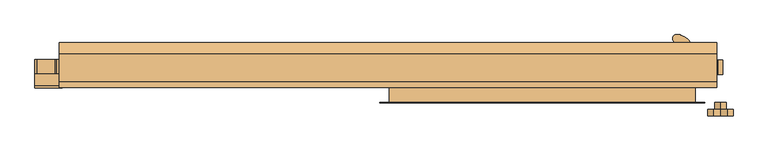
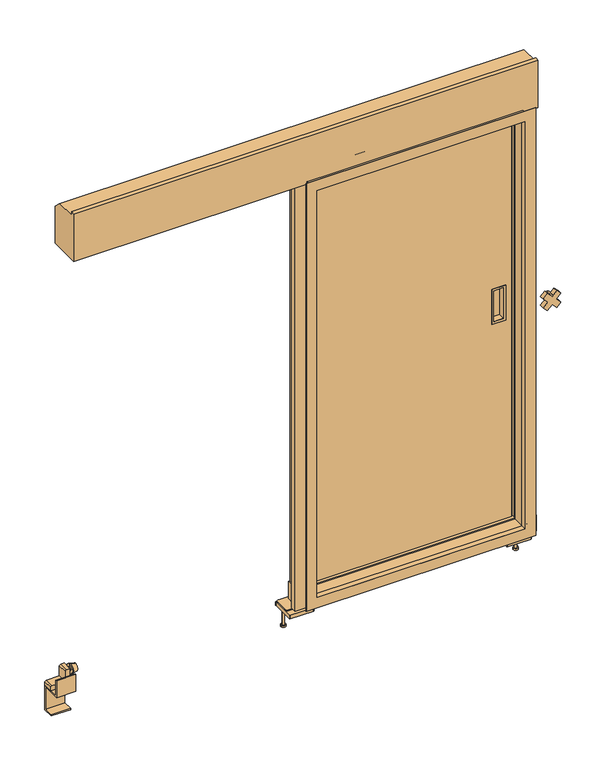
"""IFC4 building model written with IfcOpenShell, lengths in millimetres: door geometry, 冷蔵_片引きスライドドア4方_手動 : W870xH1800xt55."""

from ifc_helpers import new_model, si_unit, point, frame, frame_2d, origin, place, context, project, spatial, polyline, circle_curve, trimmed, segment, composite_curve, outline, extrude, faceted_brep, source, transform, mapped, element, save
from ifc_brep_helpers import plane_surface, cylinder_surface, revolved_surface, advanced_brep


def door_8bd8df1e(model_context):
    return source(origin(), model_context, "Body", "SolidModel", [
        faceted_brep([(470.0, 112.5, 1835.0), (-470.0, 112.5, 1835.0), (-470.0, 68.5, 1835.0), (470.0, 68.5, 1835.0), (470.0, 112.5, -35.0), (470.0, 68.5, -35.0), (-470.0, 68.5, -35.0), (-470.0, 112.5, -35.0), (-425.0, 68.5, 1790.0), (425.0, 68.5, 1790.0), (425.0, 68.5, 10.0), (-425.0, 68.5, 10.0), (-425.0, 57.5, 1790.0), (425.0, 57.5, 1790.0), (425.0, 57.5, 10.0), (-425.0, 57.5, 10.0), (350.500035, 57.5, 1033.0), (390.500035, 57.5, 1033.0), (390.500035, 57.5, 897.0), (350.500035, 57.5, 897.0), (350.500035, 85.5, 1033.0), (390.500035, 85.5, 1033.0), (350.500035, 85.5, 897.0), (390.500035, 85.5, 897.0)], [[[0, 1, 2, 3]], [[4, 5, 6, 7]], [[1, 0, 4, 7]], [[2, 1, 7, 6]], [[3, 2, 6, 5], [8, 9, 10, 11]], [[0, 3, 5, 4]], [[8, 12, 13, 9]], [[10, 14, 15, 11]], [[12, 8, 11, 15]], [[13, 12, 15, 14], [16, 17, 18, 19]], [[9, 13, 14, 10]], [[20, 21, 17, 16]], [[20, 16, 19, 22]], [[22, 19, 18, 23]], [[17, 21, 23, 18]], [[21, 20, 22, 23]]]),
        extrude(outline(polyline([(1042.0, 399.500035), (1042.0, 341.500035), (888.0, 341.500035), (888.0, 399.500035), (1042.0, 399.500035)]), holes=[polyline([(897.0, 390.500035), (897.0, 350.500035), (1033.0, 350.500035), (1033.0, 390.500035), (897.0, 390.500035)])]), frame((0.0, 55.499995, 0.0), z_axis=(0.0, 1.0, 0.0), x_axis=(0.0, 0.0, 1.0)), (0.0, 0.0, 1.0), 2.000005),
        extrude(outline(polyline([(73.49997, -69.99999), (61.49997, -57.99999), (61.49997, 5.00001), (111.49997, 5.00001), (111.49997, -69.99999), (73.49997, -69.99999)])), frame((-476.0, 0.0, 0.0), z_axis=(1.0, 0.0, 0.0), x_axis=(0.0, 1.0, 0.0)), (0.0, 0.0, 1.0), 6.0),
        extrude(outline(polyline([(73.49997, -69.99999), (61.49997, -57.99999), (61.49997, 5.00001), (111.49997, 5.00001), (111.49997, -69.99999), (73.49997, -69.99999)])), frame((470.0, 0.0, 0.0), z_axis=(1.0, 0.0, 0.0), x_axis=(0.0, 1.0, 0.0)), (0.0, 0.0, 1.0), 6.0),
        extrude(outline(polyline([(470.0, 112.5), (470.0, 77.49997), (-470.0, 77.49997), (-470.0, 112.5), (470.0, 112.5)])), frame((0.0, 0.0, -69.99999), z_axis=(0.0, 0.0, 1.0), x_axis=(1.0, 0.0, 0.0)), (0.0, 0.0, 1.0), 34.99999),
        extrude(outline(polyline([(-460.4985861, 68.5), (460.4985861, 68.5), (460.4985861, 51.499345), (-460.4985861, 51.499345), (-460.4985861, 68.5)])), frame((0.0, 0.0, -25.0), z_axis=(0.0, 0.0, 1.0), x_axis=(1.0, 0.0, 0.0)), (0.0, 0.0, 1.0), 28.0),
        extrude(outline(polyline([(460.4985861, 48.9116213), (432.5014439, 48.9116213), (432.5014439, 68.5), (460.4985861, 68.5), (460.4985861, 48.9116213)])), frame((0.0, 0.0, 10.0), z_axis=(0.0, 0.0, 1.0), x_axis=(1.0, 0.0, 0.0)), (0.0, 0.0, 1.0), 1780.0),
        extrude(outline(polyline([(-460.4985861, 48.9116213), (-460.4985861, 68.5), (-432.5014439, 68.5), (-432.5014439, 48.9116213), (-460.4985861, 48.9116213)])), frame((0.0, 0.0, 10.0), z_axis=(0.0, 0.0, 1.0), x_axis=(1.0, 0.0, 0.0)), (0.0, 0.0, 1.0), 1780.0),
        extrude(outline(polyline([(460.4985861, 68.5), (460.4985861, 48.9116213), (-460.4985861, 48.9116213), (-460.4985861, 68.5), (460.4985861, 68.5)])), frame((0.0, 0.0, 1797.4986091), z_axis=(0.0, 0.0, 1.0), x_axis=(1.0, 0.0, 0.0)), (0.0, 0.0, 1.0), 28.0),
        extrude(outline(composite_curve([segment(trimmed(circle_curve(frame_2d((-405.4891322, 152.0220459)), 2.0), [point((-405.4891322, 154.0220459))], [point((-403.4891322, 152.0220459))], False, "CARTESIAN"), True, "CONTINUOUS"), segment(polyline([(-403.4891322, 152.0220459), (-403.4891322, 54.0220459)]), True, "CONTINUOUS"), segment(trimmed(circle_curve(frame_2d((-405.4891322, 54.0220459)), 2.0), [point((-403.4891322, 54.0220459))], [point((-405.4891322, 52.0220459))], False, "CARTESIAN"), True, "CONTINUOUS"), segment(polyline([(-405.4891322, 52.0220459), (-503.4891322, 52.0220459)]), True, "CONTINUOUS"), segment(trimmed(circle_curve(frame_2d((-503.4891322, 54.0220459)), 2.0), [point((-503.4891322, 52.0220459))], [point((-505.4891322, 54.0220459))], False, "CARTESIAN"), True, "CONTINUOUS"), segment(polyline([(-505.4891322, 54.0220459), (-505.4891322, 152.0220459)]), True, "CONTINUOUS"), segment(trimmed(circle_curve(frame_2d((-503.4891322, 152.0220459)), 2.0), [point((-505.4891322, 152.0220459))], [point((-503.4891322, 154.0220459))], False, "CARTESIAN"), True, "CONTINUOUS"), segment(polyline([(-503.4891322, 154.0220459), (-405.4891322, 154.0220459)]), True, "CONTINUOUS")], self_intersect=False)), frame((0.0, 0.0, -115.0), z_axis=(0.0, 0.0, 1.0), x_axis=(1.0, 0.0, 0.0)), (0.0, 0.0, 1.0), 15.0),
        extrude(outline(composite_curve([segment(trimmed(circle_curve(frame_2d((503.0, 152.0)), 2.0), [point((503.0, 154.0))], [point((505.0, 152.0))], False, "CARTESIAN"), True, "CONTINUOUS"), segment(polyline([(505.0, 152.0), (505.0, 54.0)]), True, "CONTINUOUS"), segment(trimmed(circle_curve(frame_2d((503.0, 54.0)), 2.0), [point((505.0, 54.0))], [point((503.0, 52.0))], False, "CARTESIAN"), True, "CONTINUOUS"), segment(polyline([(503.0, 52.0), (405.0, 52.0)]), True, "CONTINUOUS"), segment(trimmed(circle_curve(frame_2d((405.0, 54.0)), 2.0), [point((405.0, 52.0))], [point((403.0, 54.0))], False, "CARTESIAN"), True, "CONTINUOUS"), segment(polyline([(403.0, 54.0), (403.0, 152.0)]), True, "CONTINUOUS"), segment(trimmed(circle_curve(frame_2d((405.0, 152.0)), 2.0), [point((403.0, 152.0))], [point((405.0, 154.0))], False, "CARTESIAN"), True, "CONTINUOUS"), segment(polyline([(405.0, 154.0), (503.0, 154.0)]), True, "CONTINUOUS")], self_intersect=False)), frame((0.0, 0.0, -115.0), z_axis=(0.0, 0.0, 1.0), x_axis=(1.0, 0.0, 0.0)), (0.0, 0.0, 1.0), 15.0),
        extrude(outline(polyline([(-94.0, 532.0), (-25.009996, 532.0), (-25.002916, 517.0), (-30.003376, 511.99999), (-74.007516, 511.99999), (-74.007516, 457.0), (-79.007976, 451.99999), (-94.0, 451.99999), (-94.0, 532.0)])), frame((0.0, 62.0, 0.0), z_axis=(0.0, 1.0, 0.0), x_axis=(0.0, 0.0, 1.0)), (0.0, 0.0, 1.0), 42.00225),
        extrude(outline(polyline([(1037.123106, 544.9454365), (1017.6776695, 525.5), (1037.123106, 506.0545635), (1019.4454365, 488.376894), (1000.0, 507.8223305), (980.5545635, 488.376894), (962.876894, 506.0545635), (982.3223305, 525.5), (962.876894, 544.9454365), (980.5545635, 562.623106), (1000.0, 543.1776695), (1019.4454365, 562.623106), (1037.123106, 544.9454365)])), frame((0.0, -62.0, 0.0), z_axis=(0.0, 1.0, 0.0), x_axis=(0.0, 0.0, 1.0)), (0.0, 0.0, 1.0), 20.0),
        extrude(outline(composite_curve([segment(trimmed(circle_curve(frame_2d((1000.0, 525.5)), 16.99999), [point((983.00001, 525.5))], [point((1016.99999, 525.5))], False, "CARTESIAN"), True, "CONTINUOUS"), segment(trimmed(circle_curve(frame_2d((1000.0, 525.5)), 16.99999), [point((1016.99999, 525.5))], [point((983.00001, 525.5))], False, "CARTESIAN"), True, "CONTINUOUS")], self_intersect=False)), frame((0.0, -42.0, 0.0), z_axis=(0.0, 1.0, 0.0), x_axis=(0.0, 0.0, 1.0)), (0.0, 0.0, 1.0), 20.0),
        advanced_brep(
        [(-1404.999995, 85.0, -58.99311), (-1404.999995, 85.0, -19.0), (-1404.999995, 85.0, -30.996555), (-1404.999995, 85.0, -46.996555), (-1400.999995, 85.0, -58.99311), (-1400.999995, 85.0, -19.0), (-1380.999995, 85.0, -53.9931073), (-1380.999995, 85.0, -24.0000027), (-1380.999995, 85.0, -38.996555), (-1416.99999, 85.0, -46.996555), (-1416.99999, 85.0, -30.996555), (-1416.99999, 85.0, -38.996555)],
        [
            (0, 1, circle_curve(frame((-1404.999995, 85.0, -38.996555), z_axis=(-1.0, 0.0, 0.0), x_axis=(0.0, 0.0, 1.0)), 19.996555)),
            (1, 2),
            (2, 3, circle_curve(frame((-1404.999995, 85.0, -38.996555), z_axis=(1.0, 0.0, 0.0), x_axis=(0.0, 0.0, 1.0)), 8.0)),
            (3, 0),
            (1, 0, circle_curve(frame((-1404.999995, 85.0, -38.996555), z_axis=(-1.0, 0.0, 0.0), x_axis=(0.0, 0.0, 1.0)), 19.996555)),
            (3, 2, circle_curve(frame((-1404.999995, 85.0, -38.996555), z_axis=(1.0, 0.0, 0.0), x_axis=(0.0, 0.0, 1.0)), 8.0)),
            (4, 5, circle_curve(frame((-1400.999995, 85.0, -38.996555), z_axis=(-1.0, 0.0, 0.0), x_axis=(0.0, 0.0, 1.0)), 19.996555)),
            (5, 1),
            (0, 4),
            (5, 4, circle_curve(frame((-1400.999995, 85.0, -38.996555), z_axis=(-1.0, 0.0, 0.0), x_axis=(0.0, 0.0, 1.0)), 19.996555)),
            (6, 7, circle_curve(frame((-1380.999995, 85.0, -38.996555), z_axis=(-1.0, 0.0, 0.0), x_axis=(0.0, 0.0, 1.0)), 14.9965523)),
            (7, 5),
            (4, 6),
            (7, 6, circle_curve(frame((-1380.999995, 85.0, -38.996555), z_axis=(-1.0, 0.0, 0.0), x_axis=(0.0, 0.0, 1.0)), 14.9965523)),
            (8, 7),
            (6, 8),
            (9, 10, circle_curve(frame((-1416.99999, 85.0, -38.996555), z_axis=(-1.0, 0.0, 0.0), x_axis=(0.0, 0.0, 1.0)), 8.0)),
            (10, 11),
            (11, 9),
            (10, 9, circle_curve(frame((-1416.99999, 85.0, -38.996555), z_axis=(-1.0, 0.0, 0.0), x_axis=(0.0, 0.0, 1.0)), 8.0)),
            (2, 10),
            (9, 3),
        ],
        [
            plane_surface(frame((-1404.999995, 85.0, -38.996555), z_axis=(-1.0, 0.0, 0.0), x_axis=(0.0, 0.0, 1.0))),
            cylinder_surface(frame((-1380.999995, 85.0, -38.996555), z_axis=(1.0, 0.0, 0.0), x_axis=(0.0, 0.0, 1.0)), 19.996555),
            revolved_surface(polyline([(-1400.999995, 85.0, -19.0), (-1380.999995, 85.0, -24.0000027)]), (-1380.999995, 85.0, -38.996555), (1.0, 0.0, 0.0)),
            plane_surface(frame((-1380.999995, 85.0, -38.996555), z_axis=(1.0, 0.0, 0.0), x_axis=(0.0, 0.0, 1.0))),
            plane_surface(frame((-1416.99999, 85.0, -38.996555), z_axis=(-1.0, 0.0, 0.0), x_axis=(0.0, 0.0, 1.0))),
            cylinder_surface(frame((-1380.999995, 85.0, -38.996555), z_axis=(1.0, 0.0, 0.0), x_axis=(0.0, 0.0, 1.0)), 8.0),
        ],
        [
            (0, [[1, 2, 3, 4]]),
            (0, [[5, -4, 6, -2]]),
            (1, [[7, 8, -1, 9]]),
            (1, [[10, -9, -5, -8]]),
            (2, [[11, 12, -7, 13]]),
            (2, [[14, -13, -10, -12]]),
            (3, [[15, -11, 16]]),
            (3, [[-16, -14, -15]]),
            (4, [[17, 18, 19]]),
            (4, [[20, -19, -18]]),
            (5, [[-3, 21, -17, 22]]),
            (5, [[-6, -22, -20, -21]]),
        ],
    ),
        extrude(outline(polyline([(-91.983954, -1416.99999), (-21.99395, -1416.99999), (-21.98687, -1431.99999), (-26.98733, -1437.0), (-71.99396, -1437.0), (-71.99147, -1491.99999), (-76.99193, -1497.0), (-91.99397, -1497.0), (-91.983954, -1416.99999)])), frame((0.0, 63.99775, 0.0), z_axis=(0.0, 1.0, 0.0), x_axis=(0.0, 0.0, 1.0)), (0.0, 0.0, 1.0), 42.00225),
        advanced_brep(
        [(499.999995, 83.0, -62.009156), (499.999995, 83.0, -22.016046), (499.999995, 83.0, -34.012601), (499.999995, 83.0, -50.012601), (495.999995, 83.0, -62.009156), (495.999995, 83.0, -22.016046), (475.999995, 83.0, -57.0091533), (475.999995, 83.0, -27.0160487), (475.999995, 83.0, -42.012601), (511.99999, 83.0, -50.012601), (511.99999, 83.0, -34.012601), (511.99999, 83.0, -42.012601)],
        [
            (0, 1, circle_curve(frame((499.999995, 83.0, -42.012601), z_axis=(1.0, 0.0, 0.0), x_axis=(0.0, 0.0, 1.0)), 19.996555)),
            (1, 2),
            (2, 3, circle_curve(frame((499.999995, 83.0, -42.012601), z_axis=(-1.0, 0.0, 0.0), x_axis=(0.0, 0.0, 1.0)), 8.0)),
            (3, 0),
            (1, 0, circle_curve(frame((499.999995, 83.0, -42.012601), z_axis=(1.0, 0.0, 0.0), x_axis=(0.0, 0.0, 1.0)), 19.996555)),
            (3, 2, circle_curve(frame((499.999995, 83.0, -42.012601), z_axis=(-1.0, 0.0, 0.0), x_axis=(0.0, 0.0, 1.0)), 8.0)),
            (4, 5, circle_curve(frame((495.999995, 83.0, -42.012601), z_axis=(1.0, 0.0, 0.0), x_axis=(0.0, 0.0, 1.0)), 19.996555)),
            (5, 1),
            (0, 4),
            (5, 4, circle_curve(frame((495.999995, 83.0, -42.012601), z_axis=(1.0, 0.0, 0.0), x_axis=(0.0, 0.0, 1.0)), 19.996555)),
            (6, 7, circle_curve(frame((475.999995, 83.0, -42.012601), z_axis=(1.0, 0.0, 0.0), x_axis=(0.0, 0.0, 1.0)), 14.9965523)),
            (7, 5),
            (4, 6),
            (7, 6, circle_curve(frame((475.999995, 83.0, -42.012601), z_axis=(1.0, 0.0, 0.0), x_axis=(0.0, 0.0, 1.0)), 14.9965523)),
            (8, 7),
            (6, 8),
            (9, 10, circle_curve(frame((511.99999, 83.0, -42.012601), z_axis=(1.0, 0.0, 0.0), x_axis=(0.0, 0.0, 1.0)), 8.0)),
            (10, 11),
            (11, 9),
            (10, 9, circle_curve(frame((511.99999, 83.0, -42.012601), z_axis=(1.0, 0.0, 0.0), x_axis=(0.0, 0.0, 1.0)), 8.0)),
            (2, 10),
            (9, 3),
        ],
        [
            plane_surface(frame((499.999995, 83.0, -42.012601), z_axis=(1.0, 0.0, 0.0), x_axis=(0.0, 0.0, 1.0))),
            cylinder_surface(frame((475.999995, 83.0, -42.012601), z_axis=(-1.0, 0.0, 0.0), x_axis=(0.0, 0.0, 1.0)), 19.996555),
            revolved_surface(polyline([(495.999995, 83.0, -22.016046), (475.999995, 83.0, -27.0160487)]), (475.999995, 83.0, -42.012601), (-1.0, 0.0, 0.0)),
            plane_surface(frame((475.999995, 83.0, -42.012601), z_axis=(-1.0, 0.0, 0.0), x_axis=(0.0, 0.0, 1.0))),
            plane_surface(frame((511.99999, 83.0, -42.012601), z_axis=(1.0, 0.0, 0.0), x_axis=(0.0, 0.0, 1.0))),
            cylinder_surface(frame((475.999995, 83.0, -42.012601), z_axis=(-1.0, 0.0, 0.0), x_axis=(0.0, 0.0, 1.0)), 8.0),
        ],
        [
            (0, [[1, 2, 3, 4]]),
            (0, [[5, -4, 6, -2]]),
            (1, [[7, 8, -1, 9]]),
            (1, [[10, -9, -5, -8]]),
            (2, [[11, 12, -7, 13]]),
            (2, [[14, -13, -10, -12]]),
            (3, [[15, -11, 16]]),
            (3, [[-16, -14, -15]]),
            (4, [[17, 18, 19]]),
            (4, [[20, -19, -18]]),
            (5, [[-3, 21, -17, 22]]),
            (5, [[-6, -22, -20, -21]]),
        ],
    ),
        extrude(outline(composite_curve([segment(polyline([(-433.999285, 141.49999), (-433.999285, 90.49999)]), True, "CONTINUOUS"), segment(trimmed(circle_curve(frame_2d((-443.999285, 90.49999)), 10.0), [point((-433.999285, 90.49999))], [point((-443.999285, 80.49999))], False, "CARTESIAN"), True, "CONTINUOUS"), segment(polyline([(-443.999285, 80.49999), (-495.00008, 80.49999)]), True, "CONTINUOUS"), segment(trimmed(circle_curve(frame_2d((-495.00008, 90.49999)), 10.0), [point((-495.00008, 80.49999))], [point((-505.00008, 90.49999))], False, "CARTESIAN"), True, "CONTINUOUS"), segment(polyline([(-505.00008, 90.49999), (-505.00008, 141.49999)]), True, "CONTINUOUS"), segment(trimmed(circle_curve(frame_2d((-495.00008, 141.49999)), 10.0), [point((-505.00008, 141.49999))], [point((-495.00008, 151.49999))], False, "CARTESIAN"), True, "CONTINUOUS"), segment(polyline([(-495.00008, 151.49999), (-443.999285, 151.49999)]), True, "CONTINUOUS"), segment(trimmed(circle_curve(frame_2d((-443.999285, 141.49999)), 10.0), [point((-443.999285, 151.49999))], [point((-433.999285, 141.49999))], False, "CARTESIAN"), True, "CONTINUOUS")], self_intersect=False)), frame((0.0, 0.0, -100.0), z_axis=(0.0, 0.0, 1.0), x_axis=(1.0, 0.0, 0.0)), (0.0, 0.0, 1.0), 6.0),
        extrude(outline(composite_curve([segment(polyline([(504.50008, 141.49999), (504.50008, 90.49999)]), True, "CONTINUOUS"), segment(trimmed(circle_curve(frame_2d((494.50008, 90.49999)), 10.0), [point((504.50008, 90.49999))], [point((494.50008, 80.49999))], False, "CARTESIAN"), True, "CONTINUOUS"), segment(polyline([(494.50008, 80.49999), (443.499285, 80.49999)]), True, "CONTINUOUS"), segment(trimmed(circle_curve(frame_2d((443.499285, 90.49999)), 10.0), [point((443.499285, 80.49999))], [point((433.499285, 90.49999))], False, "CARTESIAN"), True, "CONTINUOUS"), segment(polyline([(433.499285, 90.49999), (433.499285, 141.49999)]), True, "CONTINUOUS"), segment(trimmed(circle_curve(frame_2d((443.499285, 141.49999)), 10.0), [point((433.499285, 141.49999))], [point((443.499285, 151.49999))], False, "CARTESIAN"), True, "CONTINUOUS"), segment(polyline([(443.499285, 151.49999), (494.50008, 151.49999)]), True, "CONTINUOUS"), segment(trimmed(circle_curve(frame_2d((494.50008, 141.49999)), 10.0), [point((494.50008, 151.49999))], [point((504.50008, 141.49999))], False, "CARTESIAN"), True, "CONTINUOUS")], self_intersect=False)), frame((0.0, 0.0, -100.0), z_axis=(0.0, 0.0, 1.0), x_axis=(1.0, 0.0, 0.0)), (0.0, 0.0, 1.0), 6.0),
        extrude(outline(polyline([(155.499875, 1967.610405), (155.499875, 1805.000385), (22.0, 1805.000385), (22.0, 2015.000355), (38.499875, 2015.000355), (38.499875, 2000.000305), (123.109975, 2000.000305), (155.499875, 1967.610405)])), frame((-1425.0, 0.0, 0.0), z_axis=(1.0, 0.0, 0.0), x_axis=(0.0, 1.0, 0.0)), (0.0, 0.0, 1.0), 1940.0),
        faceted_brep([(451.00103, 22.0, -16.00103), (451.00103, -22.0, -16.00103), (-451.00103, -22.0, -16.00103), (-451.00103, 22.0, -16.00103), (-451.00103, -22.0, 1816.00103), (-451.00103, 22.0, 1816.00103), (451.00103, -22.0, 1816.00103), (-435.0, -22.0, 1800.0), (435.0, -22.0, 1800.0), (435.0, -22.0, 0.0), (-435.0, -22.0, 0.0), (-500.0, 22.0, -65.0), (500.0, 22.0, -65.0), (500.0, 22.0, 1865.0), (-500.0, 22.0, 1865.0), (451.00103, 22.0, 1816.00103), (500.0, 49.0, -65.0), (-500.0, 49.0, -65.0), (-500.0, 49.0, 1865.0), (500.0, 49.0, 1865.0), (-435.0, 49.0, 0.0), (435.0, 49.0, 0.0), (435.0, 49.0, 1800.0), (-435.0, 49.0, 1800.0)], [[[0, 1, 2, 3]], [[3, 2, 4, 5]], [[2, 1, 6, 4], [7, 8, 9, 10]], [[11, 12, 13, 14], [5, 15, 0, 3]], [[16, 12, 11, 17]], [[17, 11, 14, 18]], [[18, 19, 16, 17], [20, 21, 22, 23]], [[9, 21, 20, 10]], [[10, 20, 23, 7]], [[15, 6, 1, 0]], [[19, 13, 12, 16]], [[8, 22, 21, 9]], [[5, 4, 6, 15]], [[18, 14, 13, 19]], [[7, 23, 22, 8]]]),
        faceted_brep([(479.0, -22.0, -44.0), (479.0, -23.2, -44.0), (-479.0, -23.2, -44.0), (-479.0, -22.0, -44.0), (-479.0, -23.2, 1844.0), (-479.0, -22.0, 1844.0), (479.0, -23.2, 1844.0), (-433.8, -23.2, 1798.8), (433.8, -23.2, 1798.8), (433.8, -23.2, 1.2), (-433.8, -23.2, 1.2), (479.0, -22.0, 1844.0), (-435.0, -22.0, 0.0), (435.0, -22.0, 0.0), (435.0, -22.0, 1800.0), (-435.0, -22.0, 1800.0), (435.0, -1.2, 0.0), (-435.0, -1.2, 0.0), (-435.0, -1.2, 1800.0), (435.0, -1.2, 1800.0), (-433.8, -1.2, 1.2), (433.8, -1.2, 1.2), (433.8, -1.2, 1798.8), (-433.8, -1.2, 1798.8)], [[[0, 1, 2, 3]], [[3, 2, 4, 5]], [[2, 1, 6, 4], [7, 8, 9, 10]], [[5, 11, 0, 3], [12, 13, 14, 15]], [[16, 13, 12, 17]], [[17, 12, 15, 18]], [[18, 19, 16, 17], [20, 21, 22, 23]], [[9, 21, 20, 10]], [[10, 20, 23, 7]], [[11, 6, 1, 0]], [[19, 14, 13, 16]], [[8, 22, 21, 9]], [[5, 4, 6, 11]], [[18, 15, 14, 19]], [[7, 23, 22, 8]]]),
        advanced_brep(
        [(408.6234406, 177.3571279, 745.0), (408.6234402, 157.6428419, 745.0), (404.50281, 156.499985, 745.0), (393.89726, 156.499985, 745.0), (389.7766295, 157.6428424, 745.0), (389.7766298, 177.3571281, 745.0), (393.89726, 178.499985, 745.0), (404.50281, 178.499985, 745.0), (408.6234406, 177.3571279, 1245.0), (408.6234402, 157.6428419, 1245.0), (404.50281, 156.499985, 1245.0), (393.89726, 156.499985, 1245.0), (389.7766295, 157.6428424, 1245.0), (389.7766298, 177.3571281, 1245.0), (393.89726, 178.499985, 1245.0), (404.50281, 178.499985, 1245.0)],
        [
            (0, 1, circle_curve(frame((402.700035, 167.499985, 745.0), z_axis=(0.0, 0.0, -1.0), x_axis=(0.0, -1.0, 0.0)), 11.5)),
            (1, 2, circle_curve(frame((404.50281, 164.499985, 745.0), z_axis=(0.0, 0.0, -1.0), x_axis=(0.0, -1.0, 0.0)), 8.0)),
            (2, 3),
            (3, 4, circle_curve(frame((393.89726, 164.499985, 745.0), z_axis=(0.0, 0.0, -1.0), x_axis=(0.0, -1.0, 0.0)), 8.0)),
            (4, 5, circle_curve(frame((395.700035, 167.499985, 745.0), z_axis=(0.0, 0.0, -1.0), x_axis=(0.0, -1.0, 0.0)), 11.5)),
            (5, 6, circle_curve(frame((393.89726, 170.499985, 745.0), z_axis=(0.0, 0.0, -1.0), x_axis=(0.0, -1.0, 0.0)), 8.0)),
            (6, 7),
            (7, 0, circle_curve(frame((404.50281, 170.499985, 745.0), z_axis=(0.0, 0.0, -1.0), x_axis=(0.0, -1.0, 0.0)), 8.0)),
            (8, 9, circle_curve(frame((402.700035, 167.499985, 1245.0), z_axis=(0.0, 0.0, -1.0), x_axis=(0.0, -1.0, 0.0)), 11.5)),
            (9, 1),
            (0, 8),
            (9, 10, circle_curve(frame((404.50281, 164.499985, 1245.0), z_axis=(0.0, 0.0, -1.0), x_axis=(0.0, -1.0, 0.0)), 8.0)),
            (10, 2),
            (10, 11),
            (11, 3),
            (11, 12, circle_curve(frame((393.89726, 164.499985, 1245.0), z_axis=(0.0, 0.0, -1.0), x_axis=(0.0, -1.0, 0.0)), 8.0)),
            (12, 4),
            (12, 13, circle_curve(frame((395.700035, 167.499985, 1245.0), z_axis=(0.0, 0.0, -1.0), x_axis=(0.0, -1.0, 0.0)), 11.5)),
            (13, 5),
            (13, 14, circle_curve(frame((393.89726, 170.499985, 1245.0), z_axis=(0.0, 0.0, -1.0), x_axis=(0.0, -1.0, 0.0)), 8.0)),
            (14, 6),
            (14, 15),
            (15, 7),
            (15, 8, circle_curve(frame((404.50281, 170.499985, 1245.0), z_axis=(0.0, 0.0, -1.0), x_axis=(0.0, -1.0, 0.0)), 8.0)),
        ],
        [
            plane_surface(frame((404.50281, 162.499985, 745.0), z_axis=(0.0, 0.0, -1.0), x_axis=(-1.0, 0.0, 0.0))),
            cylinder_surface(frame((402.700035, 167.499985, 745.0), z_axis=(0.0, 0.0, 1.0), x_axis=(0.0, -1.0, 0.0)), 11.5),
            cylinder_surface(frame((404.50281, 164.499985, 745.0), z_axis=(0.0, 0.0, 1.0), x_axis=(0.0, -1.0, 0.0)), 8.0),
            plane_surface(frame((393.89726, 156.499985, 1245.0), z_axis=(0.0, -1.0, 0.0), x_axis=(0.0, 0.0, -1.0))),
            cylinder_surface(frame((393.89726, 164.499985, 745.0), z_axis=(0.0, 0.0, 1.0), x_axis=(0.0, -1.0, 0.0)), 8.0),
            cylinder_surface(frame((395.700035, 167.499985, 745.0), z_axis=(0.0, 0.0, 1.0), x_axis=(0.0, -1.0, 0.0)), 11.5),
            cylinder_surface(frame((393.89726, 170.499985, 745.0), z_axis=(0.0, 0.0, 1.0), x_axis=(0.0, -1.0, 0.0)), 8.0),
            plane_surface(frame((404.50281, 178.499985, 1245.0), z_axis=(0.0, 1.0, 0.0), x_axis=(0.0, 0.0, -1.0))),
            cylinder_surface(frame((404.50281, 170.499985, 745.0), z_axis=(0.0, 0.0, 1.0), x_axis=(0.0, -1.0, 0.0)), 8.0),
            plane_surface(frame((404.50281, 162.499985, 1245.0), z_axis=(0.0, 0.0, 1.0), x_axis=(1.0, 0.0, 0.0))),
        ],
        [
            (0, [[1, 2, 3, 4, 5, 6, 7, 8]]),
            (1, [[9, 10, -1, 11]]),
            (2, [[12, 13, -2, -10]]),
            (3, [[14, 15, -3, -13]]),
            (4, [[16, 17, -4, -15]]),
            (5, [[18, 19, -5, -17]]),
            (6, [[20, 21, -6, -19]]),
            (7, [[22, 23, -7, -21]]),
            (8, [[24, -11, -8, -23]]),
            (9, [[-24, -22, -20, -18, -16, -14, -12, -9]]),
        ],
    ),
        advanced_brep(
        [(-486.00008, 132.49999, -200.0), (-476.00008, 132.49999, -200.0), (-496.00008, 132.49999, -200.0), (-491.00008, 132.49999, -115.0), (-481.00008, 132.49999, -115.0), (-486.00008, 132.49999, -115.0), (-491.00008, 132.49999, -193.0), (-481.00008, 132.49999, -193.0), (-496.00008, 132.49999, -193.0), (-476.00008, 132.49999, -193.0)],
        [
            (0, 1),
            (1, 2, circle_curve(frame((-486.00008, 132.49999, -200.0), z_axis=(0.0, 0.0, -1.0), x_axis=(1.0, 0.0, 0.0)), 10.0)),
            (2, 0),
            (2, 1, circle_curve(frame((-486.00008, 132.49999, -200.0), z_axis=(0.0, 0.0, -1.0), x_axis=(1.0, 0.0, 0.0)), 10.0)),
            (3, 4, circle_curve(frame((-486.00008, 132.49999, -115.0), z_axis=(0.0, 0.0, 1.0), x_axis=(1.0, 0.0, 0.0)), 5.0)),
            (4, 5),
            (5, 3),
            (4, 3, circle_curve(frame((-486.00008, 132.49999, -115.0), z_axis=(0.0, 0.0, 1.0), x_axis=(1.0, 0.0, 0.0)), 5.0)),
            (6, 7, circle_curve(frame((-486.00008, 132.49999, -193.0), z_axis=(0.0, 0.0, 1.0), x_axis=(1.0, 0.0, 0.0)), 5.0)),
            (7, 4),
            (3, 6),
            (7, 6, circle_curve(frame((-486.00008, 132.49999, -193.0), z_axis=(0.0, 0.0, 1.0), x_axis=(1.0, 0.0, 0.0)), 5.0)),
            (8, 9, circle_curve(frame((-486.00008, 132.49999, -193.0), z_axis=(0.0, 0.0, 1.0), x_axis=(1.0, 0.0, 0.0)), 10.0)),
            (9, 7),
            (6, 8),
            (9, 8, circle_curve(frame((-486.00008, 132.49999, -193.0), z_axis=(0.0, 0.0, 1.0), x_axis=(1.0, 0.0, 0.0)), 10.0)),
            (1, 9),
            (8, 2),
        ],
        [
            plane_surface(frame((-486.00008, 132.49999, -200.0), z_axis=(0.0, 0.0, -1.0), x_axis=(1.0, 0.0, 0.0))),
            plane_surface(frame((-486.00008, 132.49999, -115.0), z_axis=(0.0, 0.0, 1.0), x_axis=(1.0, 0.0, 0.0))),
            cylinder_surface(frame((-486.00008, 132.49999, -262.0), z_axis=(0.0, 0.0, -1.0), x_axis=(1.0, 0.0, 0.0)), 5.0),
            plane_surface(frame((-486.00008, 132.49999, -193.0), z_axis=(0.0, 0.0, 1.0), x_axis=(1.0, 0.0, 0.0))),
            cylinder_surface(frame((-486.00008, 132.49999, -262.0), z_axis=(0.0, 0.0, -1.0), x_axis=(1.0, 0.0, 0.0)), 10.0),
        ],
        [
            (0, [[1, 2, 3]]),
            (0, [[-3, 4, -1]]),
            (1, [[5, 6, 7]]),
            (1, [[8, -7, -6]]),
            (2, [[9, 10, -5, 11]]),
            (2, [[12, -11, -8, -10]]),
            (3, [[13, 14, -9, 15]]),
            (3, [[16, -15, -12, -14]]),
            (4, [[-2, 17, -13, 18]]),
            (4, [[-4, -18, -16, -17]]),
        ],
    ),
        advanced_brep(
        [(485.50008, 132.49999, -200.0), (495.50008, 132.49999, -200.0), (475.50008, 132.49999, -200.0), (480.50008, 132.49999, -115.0), (490.50008, 132.49999, -115.0), (485.50008, 132.49999, -115.0), (480.50008, 132.49999, -193.0), (490.50008, 132.49999, -193.0), (475.50008, 132.49999, -193.0), (495.50008, 132.49999, -193.0)],
        [
            (0, 1),
            (1, 2, circle_curve(frame((485.50008, 132.49999, -200.0), z_axis=(0.0, 0.0, -1.0), x_axis=(1.0, 0.0, 0.0)), 10.0)),
            (2, 0),
            (2, 1, circle_curve(frame((485.50008, 132.49999, -200.0), z_axis=(0.0, 0.0, -1.0), x_axis=(1.0, 0.0, 0.0)), 10.0)),
            (3, 4, circle_curve(frame((485.50008, 132.49999, -115.0), z_axis=(0.0, 0.0, 1.0), x_axis=(1.0, 0.0, 0.0)), 5.0)),
            (4, 5),
            (5, 3),
            (4, 3, circle_curve(frame((485.50008, 132.49999, -115.0), z_axis=(0.0, 0.0, 1.0), x_axis=(1.0, 0.0, 0.0)), 5.0)),
            (6, 7, circle_curve(frame((485.50008, 132.49999, -193.0), z_axis=(0.0, 0.0, 1.0), x_axis=(1.0, 0.0, 0.0)), 5.0)),
            (7, 4),
            (3, 6),
            (7, 6, circle_curve(frame((485.50008, 132.49999, -193.0), z_axis=(0.0, 0.0, 1.0), x_axis=(1.0, 0.0, 0.0)), 5.0)),
            (8, 9, circle_curve(frame((485.50008, 132.49999, -193.0), z_axis=(0.0, 0.0, 1.0), x_axis=(1.0, 0.0, 0.0)), 10.0)),
            (9, 7),
            (6, 8),
            (9, 8, circle_curve(frame((485.50008, 132.49999, -193.0), z_axis=(0.0, 0.0, 1.0), x_axis=(1.0, 0.0, 0.0)), 10.0)),
            (1, 9),
            (8, 2),
        ],
        [
            plane_surface(frame((485.50008, 132.49999, -200.0), z_axis=(0.0, 0.0, -1.0), x_axis=(1.0, 0.0, 0.0))),
            plane_surface(frame((485.50008, 132.49999, -115.0), z_axis=(0.0, 0.0, 1.0), x_axis=(1.0, 0.0, 0.0))),
            cylinder_surface(frame((485.50008, 132.49999, -262.0), z_axis=(0.0, 0.0, -1.0), x_axis=(1.0, 0.0, 0.0)), 5.0),
            plane_surface(frame((485.50008, 132.49999, -193.0), z_axis=(0.0, 0.0, 1.0), x_axis=(1.0, 0.0, 0.0))),
            cylinder_surface(frame((485.50008, 132.49999, -262.0), z_axis=(0.0, 0.0, -1.0), x_axis=(1.0, 0.0, 0.0)), 10.0),
        ],
        [
            (0, [[1, 2, 3]]),
            (0, [[-3, 4, -1]]),
            (1, [[5, 6, 7]]),
            (1, [[8, -7, -6]]),
            (2, [[9, 10, -5, 11]]),
            (2, [[12, -11, -8, -10]]),
            (3, [[13, 14, -9, 15]]),
            (3, [[16, -15, -12, -14]]),
            (4, [[-2, 17, -13, 18]]),
            (4, [[-4, -18, -16, -17]]),
        ],
    ),
        advanced_brep(
        [(460.499285, 132.49999, -72.0), (444.499285, 132.49999, -72.0), (444.499285, 132.49999, -94.0), (460.499285, 132.49999, -94.0), (452.499285, 132.49999, -94.0), (452.499285, 132.49999, -47.0), (440.499285, 132.49999, -47.0), (464.499285, 132.49999, -47.0), (440.499285, 132.49999, -72.0), (464.499285, 132.49999, -72.0)],
        [
            (0, 1, circle_curve(frame((452.499285, 132.49999, -72.0), z_axis=(0.0, 0.0, -1.0), x_axis=(-1.0, 0.0, 0.0)), 8.0)),
            (1, 2),
            (2, 3, circle_curve(frame((452.499285, 132.49999, -94.0), z_axis=(0.0, 0.0, 1.0), x_axis=(-1.0, 0.0, 0.0)), 8.0)),
            (3, 0),
            (1, 0, circle_curve(frame((452.499285, 132.49999, -72.0), z_axis=(0.0, 0.0, -1.0), x_axis=(-1.0, 0.0, 0.0)), 8.0)),
            (3, 2, circle_curve(frame((452.499285, 132.49999, -94.0), z_axis=(0.0, 0.0, 1.0), x_axis=(-1.0, 0.0, 0.0)), 8.0)),
            (2, 4),
            (4, 3),
            (5, 6),
            (6, 7, circle_curve(frame((452.499285, 132.49999, -47.0), z_axis=(0.0, 0.0, 1.0), x_axis=(-1.0, 0.0, 0.0)), 12.0)),
            (7, 5),
            (7, 6, circle_curve(frame((452.499285, 132.49999, -47.0), z_axis=(0.0, 0.0, 1.0), x_axis=(-1.0, 0.0, 0.0)), 12.0)),
            (6, 8),
            (8, 9, circle_curve(frame((452.499285, 132.49999, -72.0), z_axis=(0.0, 0.0, 1.0), x_axis=(-1.0, 0.0, 0.0)), 12.0)),
            (9, 7),
            (9, 8, circle_curve(frame((452.499285, 132.49999, -72.0), z_axis=(0.0, 0.0, 1.0), x_axis=(-1.0, 0.0, 0.0)), 12.0)),
            (8, 1),
            (0, 9),
        ],
        [
            cylinder_surface(frame((452.499285, 132.49999, -108.3617704), z_axis=(0.0, 0.0, 1.0), x_axis=(-1.0, 0.0, 0.0)), 8.0),
            plane_surface(frame((452.499285, 132.49999, -94.0), z_axis=(0.0, 0.0, -1.0), x_axis=(-1.0, 0.0, 0.0))),
            plane_surface(frame((452.499285, 132.49999, -47.0), z_axis=(0.0, 0.0, 1.0), x_axis=(-1.0, 0.0, 0.0))),
            cylinder_surface(frame((452.499285, 132.49999, -108.3617704), z_axis=(0.0, 0.0, 1.0), x_axis=(-1.0, 0.0, 0.0)), 12.0),
            plane_surface(frame((452.499285, 132.49999, -72.0), z_axis=(0.0, 0.0, -1.0), x_axis=(-1.0, 0.0, 0.0))),
        ],
        [
            (0, [[1, 2, 3, 4]]),
            (0, [[5, -4, 6, -2]]),
            (1, [[-3, 7, 8]]),
            (1, [[-6, -8, -7]]),
            (2, [[9, 10, 11]]),
            (2, [[-11, 12, -9]]),
            (3, [[-10, 13, 14, 15]]),
            (3, [[-12, -15, 16, -13]]),
            (4, [[-14, 17, -1, 18]]),
            (4, [[-16, -18, -5, -17]]),
        ],
    ),
        advanced_brep(
        [(-444.999285, 99.49999, -72.0), (-460.999285, 99.49999, -72.0), (-460.999285, 99.49999, -94.0), (-444.999285, 99.49999, -94.0), (-452.999285, 99.49999, -94.0), (-452.999285, 99.49999, -47.0), (-464.999285, 99.49999, -47.0), (-440.999285, 99.49999, -47.0), (-464.999285, 99.49999, -72.0), (-440.999285, 99.49999, -72.0)],
        [
            (0, 1, circle_curve(frame((-452.999285, 99.49999, -72.0), z_axis=(0.0, 0.0, -1.0), x_axis=(-1.0, 0.0, 0.0)), 8.0)),
            (1, 2),
            (2, 3, circle_curve(frame((-452.999285, 99.49999, -94.0), z_axis=(0.0, 0.0, 1.0), x_axis=(-1.0, 0.0, 0.0)), 8.0)),
            (3, 0),
            (1, 0, circle_curve(frame((-452.999285, 99.49999, -72.0), z_axis=(0.0, 0.0, -1.0), x_axis=(-1.0, 0.0, 0.0)), 8.0)),
            (3, 2, circle_curve(frame((-452.999285, 99.49999, -94.0), z_axis=(0.0, 0.0, 1.0), x_axis=(-1.0, 0.0, 0.0)), 8.0)),
            (2, 4),
            (4, 3),
            (5, 6),
            (6, 7, circle_curve(frame((-452.999285, 99.49999, -47.0), z_axis=(0.0, 0.0, 1.0), x_axis=(-1.0, 0.0, 0.0)), 12.0)),
            (7, 5),
            (7, 6, circle_curve(frame((-452.999285, 99.49999, -47.0), z_axis=(0.0, 0.0, 1.0), x_axis=(-1.0, 0.0, 0.0)), 12.0)),
            (6, 8),
            (8, 9, circle_curve(frame((-452.999285, 99.49999, -72.0), z_axis=(0.0, 0.0, 1.0), x_axis=(-1.0, 0.0, 0.0)), 12.0)),
            (9, 7),
            (9, 8, circle_curve(frame((-452.999285, 99.49999, -72.0), z_axis=(0.0, 0.0, 1.0), x_axis=(-1.0, 0.0, 0.0)), 12.0)),
            (8, 1),
            (0, 9),
        ],
        [
            cylinder_surface(frame((-452.999285, 99.49999, -108.3617704), z_axis=(0.0, 0.0, 1.0), x_axis=(-1.0, 0.0, 0.0)), 8.0),
            plane_surface(frame((-452.999285, 99.49999, -94.0), z_axis=(0.0, 0.0, -1.0), x_axis=(-1.0, 0.0, 0.0))),
            plane_surface(frame((-452.999285, 99.49999, -47.0), z_axis=(0.0, 0.0, 1.0), x_axis=(-1.0, 0.0, 0.0))),
            cylinder_surface(frame((-452.999285, 99.49999, -108.3617704), z_axis=(0.0, 0.0, 1.0), x_axis=(-1.0, 0.0, 0.0)), 12.0),
            plane_surface(frame((-452.999285, 99.49999, -72.0), z_axis=(0.0, 0.0, -1.0), x_axis=(-1.0, 0.0, 0.0))),
        ],
        [
            (0, [[1, 2, 3, 4]]),
            (0, [[5, -4, 6, -2]]),
            (1, [[-3, 7, 8]]),
            (1, [[-6, -8, -7]]),
            (2, [[9, 10, 11]]),
            (2, [[-11, 12, -9]]),
            (3, [[-10, 13, 14, 15]]),
            (3, [[-12, -15, 16, -13]]),
            (4, [[-14, 17, -1, 18]]),
            (4, [[-16, -18, -5, -17]]),
        ],
    ),
        extrude(outline(polyline([(22.0, -21.98687), (27.0, -21.98687), (27.0, -91.983954), (106.0, -91.983954), (106.0, -200.0), (59.0, -200.0), (59.0, -195.0), (101.0, -195.0), (101.0, -96.983954), (22.0, -96.983954), (22.0, -21.98687)])), frame((-1497.0, 0.0, 0.0), z_axis=(1.0, 0.0, 0.0), x_axis=(0.0, 1.0, 0.0)), (0.0, 0.0, 1.0), 80.00001),
        advanced_brep(
        [(393.89726, 178.499985, 725.0), (405.9684363, 178.499985, 725.0), (406.9851731, 178.322439, 725.0), (450.0081033, 133.5570327, 725.0), (451.4023369, 124.5176673, 725.0), (451.4023369, 112.5, 725.0), (408.600035, 112.5, 725.0), (408.600035, 132.0779954, 725.0), (398.0156732, 156.499985, 725.0), (393.89726, 156.499985, 725.0), (389.7766295, 157.6428424, 725.0), (389.7766298, 177.3571281, 725.0), (393.89726, 178.499985, 745.0), (389.77663, 177.3571279, 745.0), (389.7766294, 157.6428421, 745.0), (393.89726, 156.499985, 745.0), (398.0156732, 156.499985, 745.0), (408.600035, 132.0779954, 745.0), (408.600035, 112.5, 745.0), (451.4023369, 112.5, 745.0), (451.4023369, 124.5176673, 745.0), (450.0081033, 133.5570327, 745.0), (406.9851731, 178.322439, 745.0), (405.9684363, 178.499985, 745.0)],
        [
            (0, 1),
            (1, 2, circle_curve(frame((405.9684363, 175.499985, 725.0), z_axis=(0.0, 0.0, -1.0), x_axis=(0.0, -1.0, 0.0)), 3.0)),
            (2, 3, circle_curve(frame((383.261315, 112.46518, 725.0), z_axis=(0.0, 0.0, -1.0), x_axis=(0.0, -1.0, 0.0)), 70.0)),
            (3, 4, circle_curve(frame((421.4023369, 124.5176673, 725.0), z_axis=(0.0, 0.0, -1.0), x_axis=(0.0, -1.0, 0.0)), 30.0)),
            (4, 5),
            (5, 6),
            (6, 7),
            (7, 8, circle_curve(frame((375.1326278, 132.0779954, 725.0), z_axis=(0.0, 0.0, 1.0), x_axis=(0.0, -1.0, 0.0)), 33.4674072)),
            (8, 9),
            (9, 10, circle_curve(frame((393.89726, 164.499985, 725.0), z_axis=(0.0, 0.0, -1.0), x_axis=(0.0, -1.0, 0.0)), 8.0)),
            (10, 11, circle_curve(frame((395.700035, 167.499985, 725.0), z_axis=(0.0, 0.0, -1.0), x_axis=(0.0, -1.0, 0.0)), 11.5)),
            (11, 0, circle_curve(frame((393.89726, 170.499985, 725.0), z_axis=(0.0, 0.0, -1.0), x_axis=(0.0, -1.0, 0.0)), 8.0)),
            (12, 13, circle_curve(frame((393.89726, 170.499985, 745.0), z_axis=(0.0, 0.0, 1.0), x_axis=(0.0, -1.0, 0.0)), 8.0)),
            (13, 14, circle_curve(frame((395.700035, 167.499985, 745.0), z_axis=(0.0, 0.0, 1.0), x_axis=(0.0, -1.0, 0.0)), 11.5)),
            (14, 15, circle_curve(frame((393.89726, 164.499985, 745.0), z_axis=(0.0, 0.0, 1.0), x_axis=(0.0, -1.0, 0.0)), 8.0)),
            (15, 16),
            (16, 17, circle_curve(frame((375.1326278, 132.0779954, 745.0), z_axis=(0.0, 0.0, -1.0), x_axis=(0.0, -1.0, 0.0)), 33.4674072)),
            (17, 18),
            (18, 19),
            (19, 20),
            (20, 21, circle_curve(frame((421.4023369, 124.5176673, 745.0), z_axis=(0.0, 0.0, 1.0), x_axis=(0.0, -1.0, 0.0)), 30.0)),
            (21, 22, circle_curve(frame((383.261315, 112.46518, 745.0), z_axis=(0.0, 0.0, 1.0), x_axis=(0.0, -1.0, 0.0)), 70.0)),
            (22, 23, circle_curve(frame((405.9684363, 175.499985, 745.0), z_axis=(0.0, 0.0, 1.0), x_axis=(0.0, -1.0, 0.0)), 3.0)),
            (23, 12),
            (23, 1),
            (0, 12),
            (11, 13),
            (10, 14),
            (9, 15),
            (8, 16),
            (17, 7),
            (6, 18),
            (5, 19),
            (4, 20),
            (3, 21),
            (2, 22),
        ],
        [
            plane_surface(frame((393.89726, 162.499985, 725.0), z_axis=(0.0, 0.0, -1.0), x_axis=(-1.0, 0.0, 0.0))),
            plane_surface(frame((393.89726, 162.499985, 745.0), z_axis=(0.0, 0.0, 1.0), x_axis=(1.0, 0.0, 0.0))),
            plane_surface(frame((405.9684363, 178.499985, 745.0), z_axis=(0.0, 1.0, 0.0), x_axis=(0.0, 0.0, -1.0))),
            cylinder_surface(frame((393.89726, 170.499985, 725.0), z_axis=(0.0, 0.0, 1.0), x_axis=(0.0, -1.0, 0.0)), 8.0),
            cylinder_surface(frame((395.700035, 167.499985, 725.0), z_axis=(0.0, 0.0, 1.0), x_axis=(0.0, -1.0, 0.0)), 11.5),
            cylinder_surface(frame((393.89726, 164.499985, 725.0), z_axis=(0.0, 0.0, 1.0), x_axis=(0.0, -1.0, 0.0)), 8.0),
            plane_surface(frame((393.89726, 156.499985, 745.0), z_axis=(0.0, -1.0, 0.0), x_axis=(0.0, 0.0, -1.0))),
            plane_surface(frame((408.600035, 132.0779954, 745.0), z_axis=(-1.0, 0.0, 0.0), x_axis=(0.0, 0.0, -1.0))),
            plane_surface(frame((408.600035, 112.5, 745.0), z_axis=(0.0, -1.0, 0.0), x_axis=(0.0, 0.0, -1.0))),
            plane_surface(frame((451.4023369, 112.5, 745.0), z_axis=(1.0, 0.0, 0.0), x_axis=(0.0, 0.0, -1.0))),
            cylinder_surface(frame((421.4023369, 124.5176673, 725.0), z_axis=(0.0, 0.0, 1.0), x_axis=(0.0, -1.0, 0.0)), 30.0),
            cylinder_surface(frame((383.261315, 112.46518, 725.0), z_axis=(0.0, 0.0, 1.0), x_axis=(0.0, -1.0, 0.0)), 70.0),
            cylinder_surface(frame((405.9684363, 175.499985, 725.0), z_axis=(0.0, 0.0, 1.0), x_axis=(0.0, -1.0, 0.0)), 3.0),
            revolved_surface(polyline([(375.1326278, 98.6105882, 725.0), (375.1326278, 98.6105882, 745.0)]), (375.1326278, 132.0779954, 725.0), (0.0, 0.0, -1.0)),
        ],
        [
            (0, [[1, 2, 3, 4, 5, 6, 7, 8, 9, 10, 11, 12]]),
            (1, [[13, 14, 15, 16, 17, 18, 19, 20, 21, 22, 23, 24]]),
            (2, [[-24, 25, -1, 26]]),
            (3, [[-13, -26, -12, 27]]),
            (4, [[-14, -27, -11, 28]]),
            (5, [[-15, -28, -10, 29]]),
            (6, [[-16, -29, -9, 30]]),
            (7, [[-18, 31, -7, 32]]),
            (8, [[-19, -32, -6, 33]]),
            (9, [[-20, -33, -5, 34]]),
            (10, [[-21, -34, -4, 35]]),
            (11, [[-22, -35, -3, 36]]),
            (12, [[-23, -36, -2, -25]]),
            (13, [[-17, -30, -8, -31]]),
        ],
    ),
        advanced_brep(
        [(393.89726, 178.499985, 1265.0), (389.77663, 177.3571279, 1265.0), (389.7766294, 157.6428421, 1265.0), (393.89726, 156.499985, 1265.0), (398.0156732, 156.499985, 1265.0), (408.600035, 132.0779954, 1265.0), (408.600035, 112.5, 1265.0), (451.4023369, 112.5, 1265.0), (451.4023369, 124.5176673, 1265.0), (450.0081033, 133.5570327, 1265.0), (406.9851731, 178.322439, 1265.0), (405.9684363, 178.499985, 1265.0), (393.89726, 178.499985, 1244.99999), (405.9684363, 178.499985, 1244.99999), (406.9851731, 178.322439, 1244.99999), (450.0081033, 133.5570327, 1244.99999), (451.4023369, 124.5176673, 1244.99999), (451.4023369, 112.5, 1244.99999), (408.600035, 112.5, 1244.99999), (408.600035, 132.0779954, 1244.99999), (398.0156732, 156.499985, 1244.99999), (393.89726, 156.499985, 1244.99999), (389.7766295, 157.6428424, 1244.99999), (389.7766298, 177.3571281, 1244.99999)],
        [
            (0, 1, circle_curve(frame((393.89726, 170.499985, 1265.0), z_axis=(0.0, 0.0, 1.0), x_axis=(0.0, -1.0, 0.0)), 8.0)),
            (1, 2, circle_curve(frame((395.700035, 167.499985, 1265.0), z_axis=(0.0, 0.0, 1.0), x_axis=(0.0, -1.0, 0.0)), 11.5)),
            (2, 3, circle_curve(frame((393.89726, 164.499985, 1265.0), z_axis=(0.0, 0.0, 1.0), x_axis=(0.0, -1.0, 0.0)), 8.0)),
            (3, 4),
            (4, 5, circle_curve(frame((375.1326278, 132.0779954, 1265.0), z_axis=(0.0, 0.0, -1.0), x_axis=(0.0, -1.0, 0.0)), 33.4674072)),
            (5, 6),
            (6, 7),
            (7, 8),
            (8, 9, circle_curve(frame((421.4023369, 124.5176673, 1265.0), z_axis=(0.0, 0.0, 1.0), x_axis=(0.0, -1.0, 0.0)), 30.0)),
            (9, 10, circle_curve(frame((383.261315, 112.46518, 1265.0), z_axis=(0.0, 0.0, 1.0), x_axis=(0.0, -1.0, 0.0)), 70.0)),
            (10, 11, circle_curve(frame((405.9684363, 175.499985, 1265.0), z_axis=(0.0, 0.0, 1.0), x_axis=(0.0, -1.0, 0.0)), 3.0)),
            (11, 0),
            (12, 13),
            (13, 14, circle_curve(frame((405.9684363, 175.499985, 1244.99999), z_axis=(0.0, 0.0, -1.0), x_axis=(0.0, -1.0, 0.0)), 3.0)),
            (14, 15, circle_curve(frame((383.261315, 112.46518, 1244.99999), z_axis=(0.0, 0.0, -1.0), x_axis=(0.0, -1.0, 0.0)), 70.0)),
            (15, 16, circle_curve(frame((421.4023369, 124.5176673, 1244.99999), z_axis=(0.0, 0.0, -1.0), x_axis=(0.0, -1.0, 0.0)), 30.0)),
            (16, 17),
            (17, 18),
            (18, 19),
            (19, 20, circle_curve(frame((375.1326278, 132.0779954, 1244.99999), z_axis=(0.0, 0.0, 1.0), x_axis=(0.0, -1.0, 0.0)), 33.4674072)),
            (20, 21),
            (21, 22, circle_curve(frame((393.89726, 164.499985, 1244.99999), z_axis=(0.0, 0.0, -1.0), x_axis=(0.0, -1.0, 0.0)), 8.0)),
            (22, 23, circle_curve(frame((395.700035, 167.499985, 1244.99999), z_axis=(0.0, 0.0, -1.0), x_axis=(0.0, -1.0, 0.0)), 11.5)),
            (23, 12, circle_curve(frame((393.89726, 170.499985, 1244.99999), z_axis=(0.0, 0.0, -1.0), x_axis=(0.0, -1.0, 0.0)), 8.0)),
            (11, 13),
            (12, 0),
            (23, 1),
            (22, 2),
            (21, 3),
            (20, 4),
            (5, 19),
            (18, 6),
            (17, 7),
            (16, 8),
            (15, 9),
            (14, 10),
        ],
        [
            plane_surface(frame((393.89726, 162.499985, 1265.0), z_axis=(0.0, 0.0, 1.0), x_axis=(1.0, 0.0, 0.0))),
            plane_surface(frame((393.89726, 162.499985, 1244.99999), z_axis=(0.0, 0.0, -1.0), x_axis=(-1.0, 0.0, 0.0))),
            plane_surface(frame((405.9684363, 178.499985, 1265.0), z_axis=(0.0, 1.0, 0.0), x_axis=(0.0, 0.0, -1.0))),
            cylinder_surface(frame((393.89726, 170.499985, 1244.99999), z_axis=(0.0, 0.0, 1.0), x_axis=(0.0, -1.0, 0.0)), 8.0),
            cylinder_surface(frame((395.700035, 167.499985, 1244.99999), z_axis=(0.0, 0.0, 1.0), x_axis=(0.0, -1.0, 0.0)), 11.5),
            cylinder_surface(frame((393.89726, 164.499985, 1244.99999), z_axis=(0.0, 0.0, 1.0), x_axis=(0.0, -1.0, 0.0)), 8.0),
            plane_surface(frame((393.89726, 156.499985, 1265.0), z_axis=(0.0, -1.0, 0.0), x_axis=(0.0, 0.0, -1.0))),
            plane_surface(frame((408.600035, 132.0779954, 1265.0), z_axis=(-1.0, 0.0, 0.0), x_axis=(0.0, 0.0, -1.0))),
            plane_surface(frame((408.600035, 112.5, 1265.0), z_axis=(0.0, -1.0, 0.0), x_axis=(0.0, 0.0, -1.0))),
            plane_surface(frame((451.4023369, 112.5, 1265.0), z_axis=(1.0, 0.0, 0.0), x_axis=(0.0, 0.0, -1.0))),
            cylinder_surface(frame((421.4023369, 124.5176673, 1244.99999), z_axis=(0.0, 0.0, 1.0), x_axis=(0.0, -1.0, 0.0)), 30.0),
            cylinder_surface(frame((383.261315, 112.46518, 1244.99999), z_axis=(0.0, 0.0, 1.0), x_axis=(0.0, -1.0, 0.0)), 70.0),
            cylinder_surface(frame((405.9684363, 175.499985, 1244.99999), z_axis=(0.0, 0.0, 1.0), x_axis=(0.0, -1.0, 0.0)), 3.0),
            revolved_surface(polyline([(375.1326278, 98.6105882, 1244.99999), (375.1326278, 98.6105882, 1265.0)]), (375.1326278, 132.0779954, 1244.99999), (0.0, 0.0, -1.0)),
        ],
        [
            (0, [[1, 2, 3, 4, 5, 6, 7, 8, 9, 10, 11, 12]]),
            (1, [[13, 14, 15, 16, 17, 18, 19, 20, 21, 22, 23, 24]]),
            (2, [[-12, 25, -13, 26]]),
            (3, [[-1, -26, -24, 27]]),
            (4, [[-2, -27, -23, 28]]),
            (5, [[-3, -28, -22, 29]]),
            (6, [[-4, -29, -21, 30]]),
            (7, [[-6, 31, -19, 32]]),
            (8, [[-7, -32, -18, 33]]),
            (9, [[-8, -33, -17, 34]]),
            (10, [[-9, -34, -16, 35]]),
            (11, [[-10, -35, -15, 36]]),
            (12, [[-11, -36, -14, -25]]),
            (13, [[-5, -30, -20, -31]]),
        ],
    ),
    ])


if __name__ == "__main__":
    model = new_model("IFC4")
    model_context = context("Model", 3, world=origin())
    ifc_project = project(units=[si_unit("LENGTHUNIT", "METRE", prefix="MILLI")], contexts=[model_context])
    site = spatial("IfcSite", under=ifc_project)
    building = spatial("IfcBuilding", under=site)
    placement = place(None, origin())
    door_shape = door_8bd8df1e(model_context)
    element("IfcDoor", 1, ObjectType="冷蔵_片引きスライドドア4方_手動 : W870xH1800xt55", at=placement, inside=building, context=model_context, shape_type="MappedRepresentation", body=[
        mapped(door_shape, transform((0.0, 0.0, 0.0), x_axis=(1.0, 0.0, 0.0), y_axis=(0.0, 1.0, 0.0), z_axis=(0.0, 0.0, 1.0))),
    ])
    save(model, "model.ifc")
